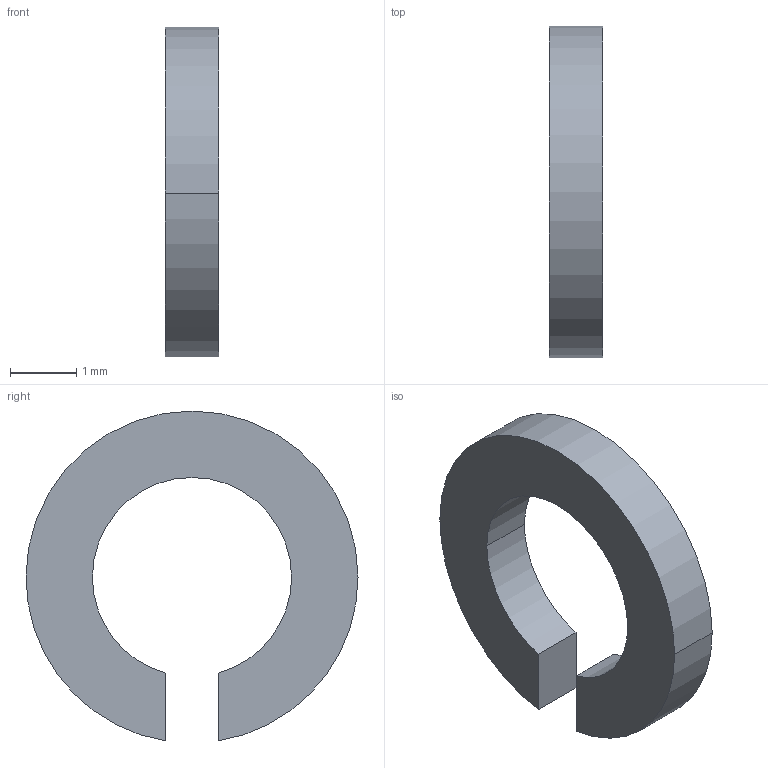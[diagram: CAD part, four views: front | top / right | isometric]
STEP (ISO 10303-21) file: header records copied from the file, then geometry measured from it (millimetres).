
FILE_DESCRIPTION (( 'STEP AP203' ), '1' );
FILE_NAME ('3MM____.stp_Défaut_sldprt.STEP', '2024-11-30T15:38:01', ( '' ), ( '' ), 'SwSTEP 2.0', 'SolidWorks 2023', '' );
FILE_SCHEMA (( 'CONFIG_CONTROL_DESIGN' ));
Length unit declared in the file: millimetre
Products named in the file (1): 3MM____.stp_Défaut_sldprt
Bounding box: 0.8 x 5 x 4.97 mm (x, y, z)
Volume: 9.4 mm3; surface area: 44 mm2
Topology: 1 solids, 1 shells, 10 faces, 24 edges, 16 vertices
Faces by surface type: cylinder 6, plane 4
Entity records: 377 total; most frequent: DIRECTION 58, CARTESIAN_POINT 51, ORIENTED_EDGE 48, EDGE_CURVE 24, AXIS2_PLACEMENT_3D 23, VERTEX_POINT 16, CIRCLE 12, LINE 12
